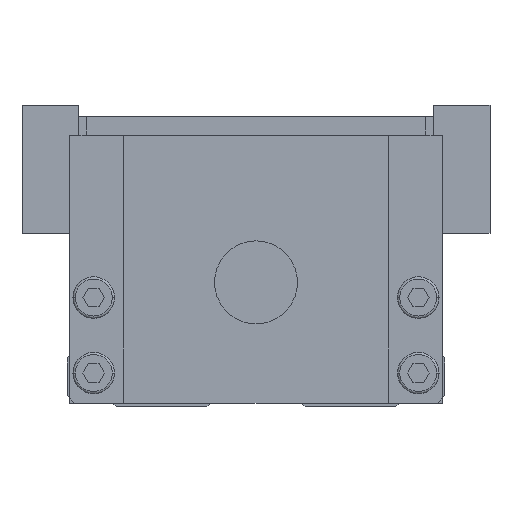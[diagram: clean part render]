
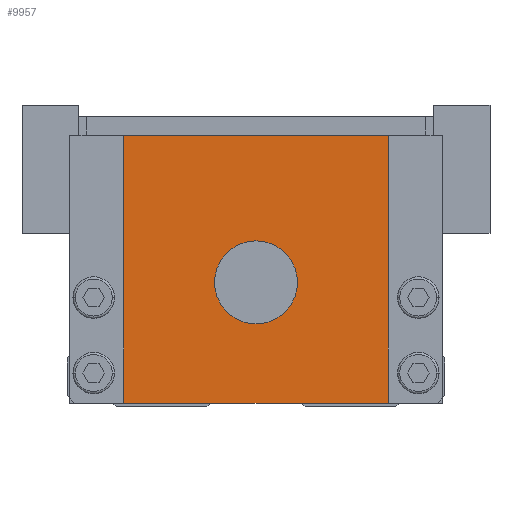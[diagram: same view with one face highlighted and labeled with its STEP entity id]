
A CAD part, front view. The second image highlights one B-rep face of the part: STEP entity #9957.
In plain terms, the highlighted planar face has unit normal (0, -1, 0).
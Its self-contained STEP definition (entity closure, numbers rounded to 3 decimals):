
#7901=VERTEX_POINT('',#20496);
#8069=EDGE_CURVE('',#10867,#7901,#20683,.T.);
#8783=EDGE_CURVE('',#12989,#7901,#21487,.T.);
#9367=VERTEX_POINT('',#22143);
#9375=VERTEX_POINT('',#22153);
#9863=EDGE_CURVE('',#10867,#9367,#22690,.T.);
#9957=ADVANCED_FACE('',(#22794,#22795),#22796,.F.);
#9975=EDGE_CURVE('',#9375,#12217,#22814,.T.);
#10867=VERTEX_POINT('',#23810);
#12217=VERTEX_POINT('',#25308);
#12989=VERTEX_POINT('',#26154);
#14303=EDGE_CURVE('',#9367,#12989,#27599,.T.);
#17191=EDGE_CURVE('',#12217,#9375,#30786,.T.);
#20496=CARTESIAN_POINT('',(-17.5,0.0,0.5));
#20683=LINE('',#35411,#35412);
#21487=LINE('',#36512,#36513);
#22143=CARTESIAN_POINT('',(17.5,0.0,36.0));
#22153=CARTESIAN_POINT('',(-5.5,0.0,16.5));
#22690=LINE('',#38162,#38163);
#22794=FACE_BOUND('',#38321,.T.);
#22795=FACE_OUTER_BOUND('',#38322,.T.);
#22796=PLANE('',#38323);
#22814=CIRCLE('',#38350,5.5);
#23810=CARTESIAN_POINT('',(-17.5,0.0,36.0));
#25308=CARTESIAN_POINT('',(5.5,0.0,16.5));
#26154=CARTESIAN_POINT('',(17.5,0.0,0.5));
#27599=LINE('',#45347,#45348);
#30786=CIRCLE('',#49984,5.5);
#35411=CARTESIAN_POINT('',(-17.5,0.0,18.25));
#35412=VECTOR('',#54624,1.0);
#36512=CARTESIAN_POINT('',(0.0,0.0,0.5));
#36513=VECTOR('',#55507,1.0);
#38162=CARTESIAN_POINT('',(0.0,0.0,36.0));
#38163=VECTOR('',#56895,1.0);
#38321=EDGE_LOOP('',(#57021,#57022));
#38322=EDGE_LOOP('',(#57023,#57024,#57025,#57026));
#38323=AXIS2_PLACEMENT_3D('',#57027,#57028,#57029);
#38350=AXIS2_PLACEMENT_3D('',#57039,#57040,#57041);
#45347=CARTESIAN_POINT('',(17.5,0.0,18.25));
#45348=VECTOR('',#62421,1.0);
#49984=AXIS2_PLACEMENT_3D('',#65958,#65959,#65960);
#54624=DIRECTION('',(0.0,0.0,-1.0));
#55507=DIRECTION('',(-1.0,0.0,0.0));
#56895=DIRECTION('',(1.0,0.0,0.0));
#57021=ORIENTED_EDGE('',*,*,#17191,.T.);
#57022=ORIENTED_EDGE('',*,*,#9975,.T.);
#57023=ORIENTED_EDGE('',*,*,#8069,.T.);
#57024=ORIENTED_EDGE('',*,*,#8783,.F.);
#57025=ORIENTED_EDGE('',*,*,#14303,.F.);
#57026=ORIENTED_EDGE('',*,*,#9863,.F.);
#57027=CARTESIAN_POINT('',(0.0,0.0,18.25));
#57028=DIRECTION('',(0.0,1.0,0.0));
#57029=DIRECTION('',(0.0,0.0,1.0));
#57039=CARTESIAN_POINT('',(0.0,0.0,16.5));
#57040=DIRECTION('',(-0.0,1.0,0.0));
#57041=DIRECTION('',(1.0,0.0,0.0));
#62421=DIRECTION('',(0.0,0.0,-1.0));
#65958=CARTESIAN_POINT('',(0.0,0.0,16.5));
#65959=DIRECTION('',(-0.0,1.0,0.0));
#65960=DIRECTION('',(1.0,0.0,0.0));
